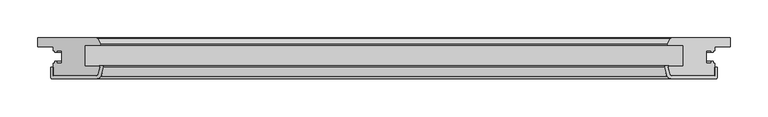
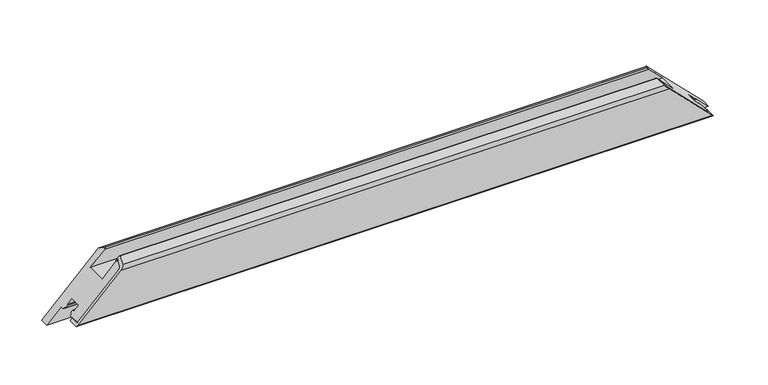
"""IFC4 building model written with IfcOpenShell, lengths in millimetres: proxy geometry, Weiku - Montante - Folha 02.2.01.017 : Weiku - Montante - Folha 02.2.01.017."""

from ifc_helpers import new_model, si_unit, frame, origin, place, context, project, spatial, polyline, ellipse_curve, source, transform, mapped, element, save
from ifc_brep_helpers import plane_surface, cylinder_surface, revolved_surface, advanced_brep


def generic_models_2be79c3e(model_context):
    return source(origin(), model_context, "Body", "AdvancedBrep", [
        advanced_brep(
        [(436.5, -50.0, 20.0), (-436.5, -50.0, 20.0), (-379.4997332, -50.0, 77.0002668), (379.4997332, -50.0, 77.0002668), (-376.6019557, -47.7764571, 79.8980443), (376.6019557, -47.7764571, 79.8980443), (-374.0170371, -38.1294095, 82.4829629), (374.0170371, -38.1294095, 82.4829629), (-374.5, -37.5, 82.0), (374.5, -37.5, 82.0), (-375.3560102, -37.5, 81.1439898), (375.3560102, -37.5, 81.1439898), (-375.3560102, -36.5, 81.1439898), (375.3560102, -36.5, 81.1439898), (-370.7425588, -36.5, 85.7574412), (370.7425588, -36.5, 85.7574412), (-369.7766329, -37.758819, 86.7233671), (369.7766329, -37.758819, 86.7233671), (-373.1354501, -50.2940952, 83.3645499), (373.1354501, -50.2940952, 83.3645499), (-377.9650792, -54.0, 78.5349208), (377.9650792, -54.0, 78.5349208), (-437.5, -54.0, 19.0), (437.5, -54.0, 19.0), (-439.5, -52.0, 17.0), (439.5, -52.0, 17.0), (-439.5, -38.5, 17.0), (439.5, -38.5, 17.0), (-436.5, -38.5, 20.0), (436.5, -38.5, 20.0)],
        [
            (0, 1),
            (1, 2),
            (2, 3),
            (3, 0),
            (2, 4, ellipse_curve(frame((-379.4997332, -47.0, 77.0002668), z_axis=(-0.7071067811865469, 0.0, 0.7071067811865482), x_axis=(0.707106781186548, 0.0, 0.7071067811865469)), 4.2426407, 3.0)),
            (4, 5),
            (5, 3, ellipse_curve(frame((379.4997332, -47.0, 77.0002668), z_axis=(0.707106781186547, 0.0, 0.7071067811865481), x_axis=(0.7071067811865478, 0.0, -0.707106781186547)), 4.2426407, 3.0)),
            (4, 6),
            (6, 7),
            (7, 5),
            (6, 8, ellipse_curve(frame((-374.5, -38.0, 82.0), z_axis=(-0.7071067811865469, 0.0, 0.7071067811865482), x_axis=(0.707106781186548, 0.0, 0.7071067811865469)), 0.7071068, 0.5)),
            (8, 9),
            (9, 7, ellipse_curve(frame((374.5, -38.0, 82.0), z_axis=(0.707106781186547, 0.0, 0.7071067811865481), x_axis=(0.7071067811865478, 0.0, -0.707106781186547)), 0.7071068, 0.5)),
            (8, 10),
            (10, 11),
            (11, 9),
            (10, 12, ellipse_curve(frame((-375.3560102, -37.0, 81.1439898), z_axis=(0.7071067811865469, 0.0, -0.7071067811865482), x_axis=(-0.707106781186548, 0.0, -0.7071067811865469)), 0.7071068, 0.5)),
            (12, 13),
            (13, 11, ellipse_curve(frame((375.3560102, -37.0, 81.1439898), z_axis=(-0.707106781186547, 0.0, -0.7071067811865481), x_axis=(-0.7071067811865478, 0.0, 0.707106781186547)), 0.7071068, 0.5)),
            (12, 14),
            (14, 15),
            (15, 13),
            (14, 16, ellipse_curve(frame((-370.7425588, -37.5, 85.7574412), z_axis=(0.7071067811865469, 0.0, -0.7071067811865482), x_axis=(-0.707106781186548, 0.0, -0.7071067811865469)), 1.4142136, 1.0)),
            (16, 17),
            (17, 15, ellipse_curve(frame((370.7425588, -37.5, 85.7574412), z_axis=(-0.707106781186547, 0.0, -0.7071067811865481), x_axis=(-0.7071067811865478, 0.0, 0.707106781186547)), 1.4142136, 1.0)),
            (16, 18),
            (18, 19),
            (19, 17),
            (18, 20, ellipse_curve(frame((-377.9650792, -49.0, 78.5349208), z_axis=(0.7071067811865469, 0.0, -0.7071067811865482), x_axis=(-0.707106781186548, 0.0, -0.7071067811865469)), 7.0710678, 5.0)),
            (20, 21),
            (21, 19, ellipse_curve(frame((377.9650792, -49.0, 78.5349208), z_axis=(-0.707106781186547, 0.0, -0.7071067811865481), x_axis=(-0.7071067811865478, 0.0, 0.707106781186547)), 7.0710678, 5.0)),
            (20, 22),
            (22, 23),
            (23, 21),
            (22, 24, ellipse_curve(frame((-437.5, -52.0, 19.0), z_axis=(0.7071067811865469, 0.0, -0.7071067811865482), x_axis=(-0.707106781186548, 0.0, -0.7071067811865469)), 2.8284271, 2.0)),
            (24, 25),
            (25, 23, ellipse_curve(frame((437.5, -52.0, 19.0), z_axis=(-0.707106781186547, 0.0, -0.7071067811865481), x_axis=(-0.7071067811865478, 0.0, 0.707106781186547)), 2.8284271, 2.0)),
            (24, 26),
            (26, 27),
            (27, 25),
            (26, 28),
            (28, 29),
            (29, 27),
            (28, 1),
            (0, 29),
        ],
        [
            plane_surface(frame((-476.5, -50.0, 20.0), z_axis=(0.0, 1.0, 0.0), x_axis=(1.0, 0.0, 0.0))),
            revolved_surface(polyline([(382.49973320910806, -50.0, 77.0002668), (-382.49973320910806, -50.0, 77.0002668)]), (-476.5, -47.0, 77.0002668), (1.0, 0.0, 0.0)),
            plane_surface(frame((-476.5, -47.7764571, 79.8980443), z_axis=(0.0, 0.2588190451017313, -0.9659258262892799), x_axis=(1.0, 0.0, 0.0))),
            revolved_surface(polyline([(375.00000001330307, -38.5, 82.0), (-375.0000000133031, -38.5, 82.0)]), (-476.5, -38.0, 82.0), (1.0, 0.0, 0.0)),
            plane_surface(frame((-476.5, -37.5, 82.0), z_axis=(0.0, -1.0, 0.0), x_axis=(1.0, 0.0, 0.0))),
            cylinder_surface(frame((-476.5, -37.0, 81.1439898), z_axis=(-1.0, 0.0, 0.0), x_axis=(0.0, -1.0, 0.0)), 0.5),
            plane_surface(frame((-476.5, -36.5, 81.1439898), z_axis=(0.0, 1.0, 0.0), x_axis=(1.0, 0.0, 0.0))),
            cylinder_surface(frame((-476.5, -37.5, 85.7574412), z_axis=(-1.0, 0.0, 0.0), x_axis=(0.0, -1.0, 0.0)), 1.0),
            plane_surface(frame((-476.5, -37.758819, 86.7233671), z_axis=(0.0, -0.25881904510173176, 0.9659258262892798), x_axis=(1.0, 0.0, 0.0))),
            cylinder_surface(frame((-476.5, -49.0, 78.5349208), z_axis=(-1.0, 0.0, 0.0), x_axis=(0.0, -1.0, 0.0)), 5.0),
            plane_surface(frame((-476.5, -54.0, 78.5349208), z_axis=(0.0, -1.0, 0.0), x_axis=(1.0, 0.0, 0.0))),
            cylinder_surface(frame((-476.5, -52.0, 19.0), z_axis=(-1.0, 0.0, 0.0), x_axis=(0.0, -1.0, 0.0)), 2.0),
            plane_surface(frame((-476.5, -52.0, 17.0), z_axis=(0.0, 0.0, -1.0), x_axis=(1.0, 0.0, 0.0))),
            plane_surface(frame((-476.5, -38.5, 17.0), z_axis=(0.0, 1.0, 0.0), x_axis=(1.0, 0.0, 0.0))),
            plane_surface(frame((-476.5, -38.5, 20.0), z_axis=(0.0, 0.0, 1.0), x_axis=(1.0, 0.0, 0.0))),
            plane_surface(frame((366.5, 0.0, 90.0), z_axis=(0.707106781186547, 0.0, 0.7071067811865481), x_axis=(0.0, -1.0, 0.0))),
            plane_surface(frame((-484.7842712, 0.0, -28.2842712), z_axis=(-0.7071067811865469, 0.0, 0.7071067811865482), x_axis=(0.0, -1.0, 0.0))),
        ],
        [
            (0, [[1, 2, 3, 4]]),
            (1, [[-3, 5, 6, 7]]),
            (2, [[-6, 8, 9, 10]]),
            (3, [[-9, 11, 12, 13]]),
            (4, [[-12, 14, 15, 16]]),
            (5, [[-15, 17, 18, 19]]),
            (6, [[-18, 20, 21, 22]]),
            (7, [[-21, 23, 24, 25]]),
            (8, [[-24, 26, 27, 28]]),
            (9, [[-27, 29, 30, 31]]),
            (10, [[-30, 32, 33, 34]]),
            (11, [[-33, 35, 36, 37]]),
            (12, [[-36, 38, 39, 40]]),
            (13, [[-39, 41, 42, 43]]),
            (14, [[-42, 44, -1, 45]]),
            (15, [[-7, -10, -13, -16, -19, -22, -25, -28, -31, -34, -37, -40, -43, -45, -4]]),
            (16, [[-44, -41, -38, -35, -32, -29, -26, -23, -20, -17, -14, -11, -8, -5, -2]]),
        ],
    ),
        advanced_brep(
        [(-436.5, -50.0, 20.0), (436.5, -50.0, 20.0), (379.4997332, -50.0, 77.0002668), (-379.4997332, -50.0, 77.0002668), (-456.5, 0.0, 0.0), (-378.4872264, 0.0, 78.0127736), (378.4872264, 0.0, 78.0127736), (456.5, 0.0, 0.0), (-376.6019557, -47.7764571, 79.8980443), (-374.0170371, -38.1294095, 82.4829629), (-374.5, -37.5, 82.0), (-395.0, -37.5, 61.5), (-395.0, -9.5, 61.5), (-375.2134285, -9.5, 81.2865715), (-374.0512796, -7.617411, 82.4487204), (-377.5932657, -0.5518546, 78.9067343), (-456.5, -11.5, 0.0), (-436.5, -11.5, 20.0), (-436.5, -16.9, 20.0), (-434.3, -16.9, 22.2), (-434.3, -18.9, 22.2), (-431.5, -18.9, 25.0), (-431.5, -16.9, 25.0), (-425.0, -16.9, 31.5), (-425.0, -33.1, 31.5), (-431.5, -33.1, 25.0), (-431.5, -31.1, 25.0), (-434.3, -31.1, 22.2), (-434.3, -33.1, 22.2), (-436.5, -33.1, 20.0), (436.5, -33.1, 20.0), (434.3, -33.1, 22.2), (434.3, -31.1, 22.2), (431.5, -31.1, 25.0), (431.5, -33.1, 25.0), (425.0, -33.1, 31.5), (425.0, -16.9, 31.5), (431.5, -16.9, 25.0), (431.5, -18.9, 25.0), (434.3, -18.9, 22.2), (434.3, -16.9, 22.2), (436.5, -16.9, 20.0), (436.5, -11.5, 20.0), (456.5, -11.5, 0.0), (377.5932657, -0.5518546, 78.9067343), (374.0512796, -7.617411, 82.4487204), (375.2134285, -9.5, 81.2865715), (395.0, -9.5, 61.5), (395.0, -37.5, 61.5), (374.5, -37.5, 82.0), (374.0170371, -38.1294095, 82.4829629), (376.6019557, -47.7764571, 79.8980443)],
        [
            (0, 1),
            (1, 2),
            (2, 3),
            (3, 0),
            (4, 5),
            (5, 6),
            (6, 7),
            (7, 4),
            (3, 8, ellipse_curve(frame((-379.4997332, -47.0, 77.0002668), z_axis=(-0.7071067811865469, 0.0, 0.7071067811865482), x_axis=(-0.707106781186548, 0.0, -0.7071067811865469)), 4.2426407, 3.0)),
            (8, 9),
            (9, 10, ellipse_curve(frame((-374.5, -38.0, 82.0), z_axis=(-0.7071067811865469, 0.0, 0.7071067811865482), x_axis=(-0.707106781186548, 0.0, -0.7071067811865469)), 0.7071068, 0.5)),
            (10, 11),
            (11, 12),
            (12, 13),
            (13, 14, ellipse_curve(frame((-375.2134285, -8.2, 81.2865715), z_axis=(-0.7071067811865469, 0.0, 0.7071067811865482), x_axis=(-0.707106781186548, 0.0, -0.7071067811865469)), 1.8384776, 1.3)),
            (14, 15),
            (15, 5, ellipse_curve(frame((-378.4872264, -1.0, 78.0127736), z_axis=(-0.7071067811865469, 0.0, 0.7071067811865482), x_axis=(-0.707106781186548, 0.0, -0.7071067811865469)), 1.4142136, 1.0)),
            (4, 16),
            (16, 17),
            (17, 18),
            (18, 19),
            (19, 20),
            (20, 21),
            (21, 22),
            (22, 23),
            (23, 24),
            (24, 25),
            (25, 26),
            (26, 27),
            (27, 28),
            (28, 29),
            (29, 0),
            (1, 30),
            (30, 31),
            (31, 32),
            (32, 33),
            (33, 34),
            (34, 35),
            (35, 36),
            (36, 37),
            (37, 38),
            (38, 39),
            (39, 40),
            (40, 41),
            (41, 42),
            (42, 43),
            (43, 7),
            (6, 44, ellipse_curve(frame((378.4872264, -1.0, 78.0127736), z_axis=(0.707106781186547, 0.0, 0.7071067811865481), x_axis=(-0.7071067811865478, 0.0, 0.707106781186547)), 1.4142136, 1.0)),
            (44, 45),
            (45, 46, ellipse_curve(frame((375.2134285, -8.2, 81.2865715), z_axis=(0.707106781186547, 0.0, 0.7071067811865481), x_axis=(-0.7071067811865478, 0.0, 0.707106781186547)), 1.8384776, 1.3)),
            (46, 47),
            (47, 48),
            (48, 49),
            (49, 50, ellipse_curve(frame((374.5, -38.0, 82.0), z_axis=(0.707106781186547, 0.0, 0.7071067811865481), x_axis=(-0.7071067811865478, 0.0, 0.707106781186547)), 0.7071068, 0.5)),
            (50, 51),
            (51, 2, ellipse_curve(frame((379.4997332, -47.0, 77.0002668), z_axis=(0.707106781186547, 0.0, 0.7071067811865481), x_axis=(-0.7071067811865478, 0.0, 0.707106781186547)), 4.2426407, 3.0)),
            (15, 44),
            (14, 45),
            (13, 46),
            (12, 47),
            (11, 48),
            (10, 49),
            (9, 50),
            (8, 51),
            (29, 30),
            (28, 31),
            (27, 32),
            (26, 33),
            (25, 34),
            (24, 35),
            (23, 36),
            (22, 37),
            (21, 38),
            (20, 39),
            (19, 40),
            (18, 41),
            (17, 42),
            (16, 43),
        ],
        [
            plane_surface(frame((-456.5, -50.0, 77.0002668), z_axis=(0.0, -1.0, 0.0), x_axis=(1.0, 0.0, 0.0))),
            plane_surface(frame((-456.5, 0.0, 0.0), z_axis=(0.0, 1.0, 0.0), x_axis=(1.0, 0.0, 0.0))),
            plane_surface(frame((-484.7842712, 0.0, -28.2842712), z_axis=(-0.7071067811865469, 0.0, 0.7071067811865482), x_axis=(0.0, -1.0, 0.0))),
            plane_surface(frame((366.5, 0.0, 90.0), z_axis=(0.707106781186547, 0.0, 0.7071067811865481), x_axis=(0.0, -1.0, 0.0))),
            cylinder_surface(frame((-456.5, -1.0, 78.0127736), z_axis=(-1.0, 0.0, 0.0), x_axis=(0.0, -1.0, 0.0)), 1.0),
            plane_surface(frame((-456.5, -0.5518546, 78.9067343), z_axis=(0.0, 0.4481453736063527, 0.8939606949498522), x_axis=(1.0, 0.0, 0.0))),
            cylinder_surface(frame((-456.5, -8.2, 81.2865715), z_axis=(-1.0, 0.0, 0.0), x_axis=(0.0, -1.0, 0.0)), 1.3),
            plane_surface(frame((-456.5, -9.5, 81.2865715), z_axis=(0.0, -1.0, 0.0), x_axis=(1.0, 0.0, 0.0))),
            plane_surface(frame((-456.5, -9.5, 61.5), z_axis=(0.0, 0.0, 1.0), x_axis=(1.0, 0.0, 0.0))),
            plane_surface(frame((-456.5, -37.5, 61.5), z_axis=(0.0, 1.0, 0.0), x_axis=(1.0, 0.0, 0.0))),
            cylinder_surface(frame((-456.5, -38.0, 82.0), z_axis=(-1.0, 0.0, 0.0), x_axis=(0.0, -1.0, 0.0)), 0.5),
            plane_surface(frame((-456.5, -38.1294095, 82.4829629), z_axis=(0.0, -0.2588190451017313, 0.9659258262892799), x_axis=(1.0, 0.0, 0.0))),
            cylinder_surface(frame((-456.5, -47.0, 77.0002668), z_axis=(-1.0, 0.0, 0.0), x_axis=(0.0, -1.0, 0.0)), 3.0),
            plane_surface(frame((-456.5, -50.0, 20.0), z_axis=(0.0, 0.0, -1.0), x_axis=(1.0, 0.0, 0.0))),
            plane_surface(frame((-456.5, -33.1, 20.0), z_axis=(0.0, 1.0, 0.0), x_axis=(1.0, 0.0, 0.0))),
            plane_surface(frame((-456.5, -33.1, 22.2), z_axis=(0.0, 0.0, -1.0), x_axis=(1.0, 0.0, 0.0))),
            plane_surface(frame((-456.5, -31.1, 22.2), z_axis=(0.0, 1.0, 0.0), x_axis=(1.0, 0.0, 0.0))),
            plane_surface(frame((-456.5, -31.1, 25.0), z_axis=(0.0, 0.0, 1.0), x_axis=(1.0, 0.0, 0.0))),
            plane_surface(frame((-456.5, -33.1, 25.0), z_axis=(0.0, 1.0, 0.0), x_axis=(1.0, 0.0, 0.0))),
            plane_surface(frame((-456.5, -33.1, 31.5), z_axis=(0.0, 0.0, -1.0), x_axis=(1.0, 0.0, 0.0))),
            plane_surface(frame((-456.5, -16.9, 31.5), z_axis=(0.0, -1.0, 0.0), x_axis=(1.0, 0.0, 0.0))),
            plane_surface(frame((-456.5, -16.9, 25.0), z_axis=(0.0, 0.0, 1.0), x_axis=(1.0, 0.0, 0.0))),
            plane_surface(frame((-456.5, -18.9, 25.0), z_axis=(0.0, -1.0, 0.0), x_axis=(1.0, 0.0, 0.0))),
            plane_surface(frame((-456.5, -18.9, 22.2), z_axis=(0.0, 0.0, -1.0), x_axis=(1.0, 0.0, 0.0))),
            plane_surface(frame((-456.5, -16.9, 22.2), z_axis=(0.0, -1.0, 0.0), x_axis=(1.0, 0.0, 0.0))),
            plane_surface(frame((-456.5, -16.9, 20.0), z_axis=(0.0, 0.0, -1.0), x_axis=(1.0, 0.0, 0.0))),
            plane_surface(frame((-456.5, -11.5, 20.0), z_axis=(0.0, -1.0, 0.0), x_axis=(1.0, 0.0, 0.0))),
            plane_surface(frame((-456.5, -11.5, 0.0), z_axis=(0.0, 0.0, -1.0), x_axis=(1.0, 0.0, 0.0))),
        ],
        [
            (0, [[1, 2, 3, 4]]),
            (1, [[5, 6, 7, 8]]),
            (2, [[9, 10, 11, 12, 13, 14, 15, 16, 17, -5, 18, 19, 20, 21, 22, 23, 24, 25, 26, 27, 28, 29, 30, 31, 32, -4]]),
            (3, [[33, 34, 35, 36, 37, 38, 39, 40, 41, 42, 43, 44, 45, 46, 47, -7, 48, 49, 50, 51, 52, 53, 54, 55, 56, -2]]),
            (4, [[57, -48, -6, -17]]),
            (5, [[58, -49, -57, -16]]),
            (6, [[59, -50, -58, -15]]),
            (7, [[60, -51, -59, -14]]),
            (8, [[61, -52, -60, -13]]),
            (9, [[62, -53, -61, -12]]),
            (10, [[63, -54, -62, -11]]),
            (11, [[64, -55, -63, -10]]),
            (12, [[-3, -56, -64, -9]]),
            (13, [[65, -33, -1, -32]]),
            (14, [[66, -34, -65, -31]]),
            (15, [[67, -35, -66, -30]]),
            (16, [[68, -36, -67, -29]]),
            (17, [[69, -37, -68, -28]]),
            (18, [[70, -38, -69, -27]]),
            (19, [[71, -39, -70, -26]]),
            (20, [[72, -40, -71, -25]]),
            (21, [[73, -41, -72, -24]]),
            (22, [[74, -42, -73, -23]]),
            (23, [[75, -43, -74, -22]]),
            (24, [[76, -44, -75, -21]]),
            (25, [[77, -45, -76, -20]]),
            (26, [[-46, -77, -19, 78]]),
            (27, [[-47, -78, -18, -8]]),
        ],
    ),
    ])


if __name__ == "__main__":
    model = new_model("IFC4")
    model_context = context("Model", 3, world=origin())
    ifc_project = project(units=[si_unit("LENGTHUNIT", "METRE", prefix="MILLI")], contexts=[model_context])
    site = spatial("IfcSite", under=ifc_project)
    building = spatial("IfcBuilding", under=site)
    placement = place(None, origin())
    generic_models_shape = generic_models_2be79c3e(model_context)
    element("IfcBuildingElementProxy", 1, Name="Weiku - Montante - Folha 02.2.01.017 : Weiku - Montante - Folha 02.2.01.017", ObjectType="Weiku - Montante - Folha 02.2.01.017 : Weiku - Montante - Folha 02.2.01.017", at=placement, inside=building, context=model_context, shape_type="MappedRepresentation", body=[
        mapped(generic_models_shape, transform((0.0, 0.0, 0.0), x_axis=(1.0, 0.0, 0.0), y_axis=(0.0, 1.0, 0.0), z_axis=(0.0, 0.0, 1.0))),
    ])
    save(model, "model.ifc")
